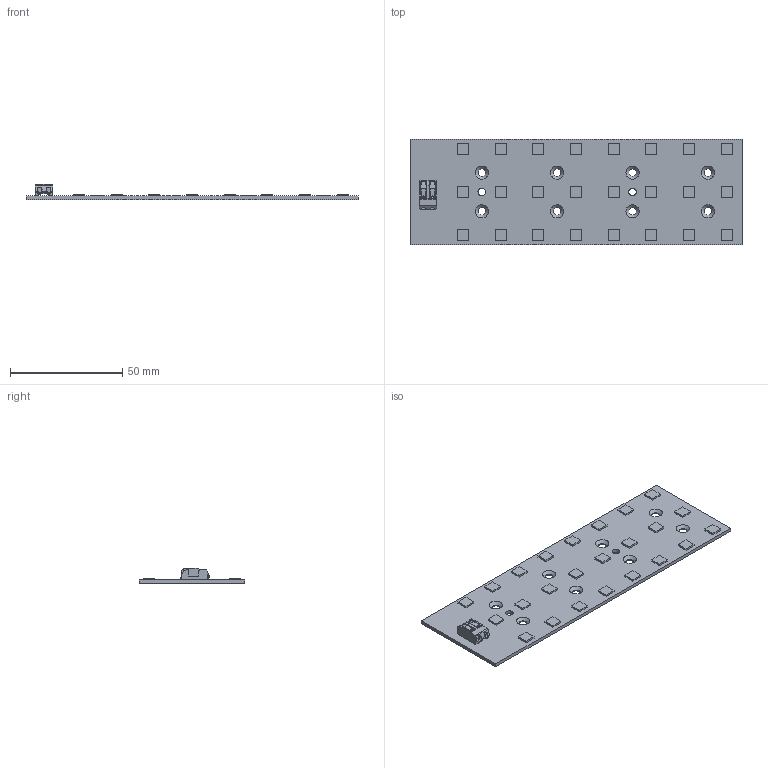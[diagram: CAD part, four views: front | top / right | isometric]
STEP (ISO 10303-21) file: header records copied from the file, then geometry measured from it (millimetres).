
FILE_DESCRIPTION(('STEP AP214'),'1');
FILE_NAME('PCB.stp','2025-03-26T15:21:19',(' '),(' '),'Spatial InterOp 3D',' ',' ');
FILE_SCHEMA(('AUTOMOTIVE_DESIGN { 1 0 10303 214 1 1 1 1 }'));
Length unit declared in the file: metre
Products named in the file (26): 1725610331; 1725610350; 1725610369; 1725610388; 1725610407; 1725610426; 1725610445; 1725610464; 1725610483; 1725610502; 1725610521; 1725610540; 1725610559; 1725610578; 1725610597; 1725610616; 1725610635; 1725610654; 1725610692; 1725610711; 1725610730; 1725610749; 1725610768; 1725610787; 1725611086; 1725611501
Bounding box: 148 x 47 x 6.7 mm (x, y, z)
Volume: 11666.5 mm3; surface area: 16721.6 mm2
Topology: 26 solids, 26 shells, 358 faces, 910 edges, 606 vertices
Faces by surface type: plane 285, extrusion 49, cylinder 14, cone 8, bspline 2
Full cylindrical faces by diameter (mm): 3.4 x10
Entity records: 14023 total; most frequent: CARTESIAN_POINT 2610, ORIENTED_EDGE 1748, DIRECTION 1513, EDGE_CURVE 874, VECTOR 759, LINE 710, VERTEX_POINT 594, EDGE_LOOP 402
